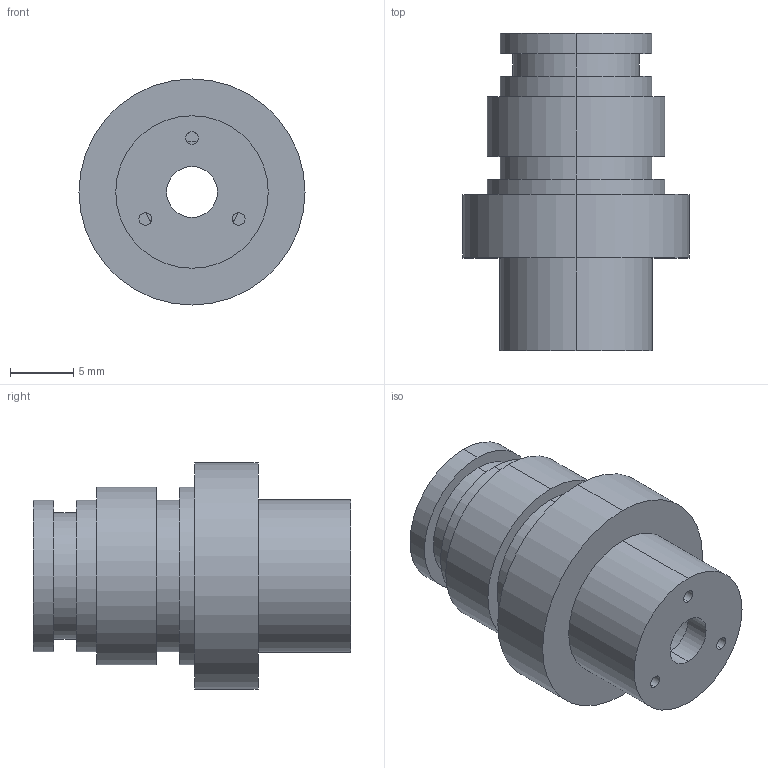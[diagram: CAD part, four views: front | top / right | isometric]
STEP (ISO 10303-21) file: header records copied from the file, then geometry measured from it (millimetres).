
FILE_DESCRIPTION (( 'STEP AP203' ), '1' );
FILE_NAME ('ER-VAS.STEP', '2005-09-06T02:38:45', ( '' ), ( '' ), 'SwSTEP 2.0', 'SolidWorks 2004073', '' );
FILE_SCHEMA (( 'CONFIG_CONTROL_DESIGN' ));
Length unit declared in the file: millimetre
Products named in the file (1): ER-VAS
Bounding box: 17.8 x 25 x 17.8 mm (x, y, z)
Volume: 2567.4 mm3; surface area: 2355.4 mm2
Topology: 1 solids, 1 shells, 42 faces, 96 edges, 62 vertices
Faces by surface type: cylinder 28, plane 14
Entity records: 1313 total; most frequent: DIRECTION 250, CARTESIAN_POINT 201, ORIENTED_EDGE 192, AXIS2_PLACEMENT_3D 111, EDGE_CURVE 96, CIRCLE 68, VERTEX_POINT 62, EDGE_LOOP 56
